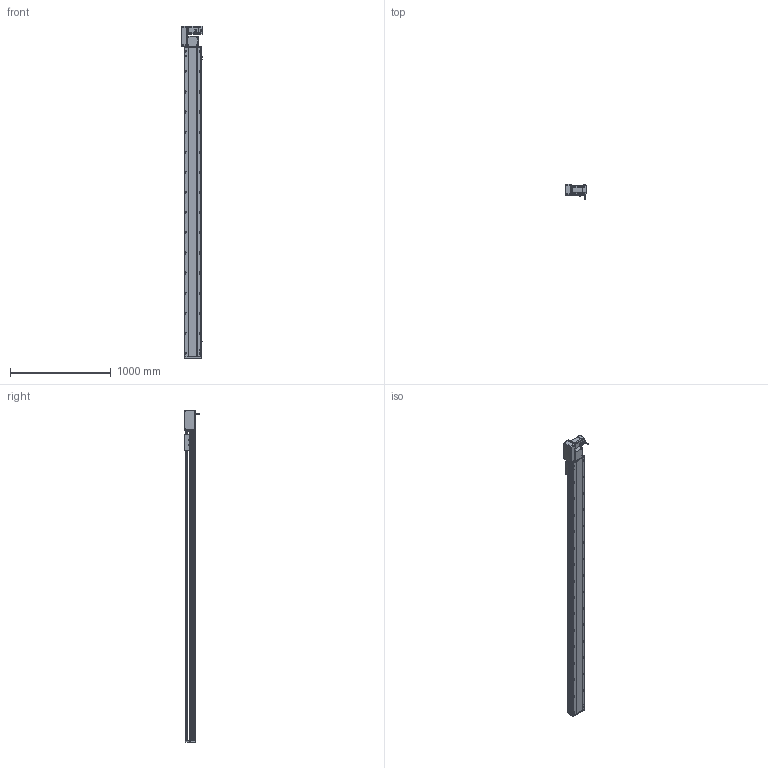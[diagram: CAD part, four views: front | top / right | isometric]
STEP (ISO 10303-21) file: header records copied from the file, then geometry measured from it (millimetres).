
FILE_DESCRIPTION (( 'STEP AP214' ), '1' );
FILE_NAME ('RTB17S-XX-2800-L-M75-C4.STEP', '2025-12-12T00:23:32', ( '' ), ( '' ), 'SwSTEP 2.0', 'SolidWorks 2018', '' );
FILE_SCHEMA (( 'AUTOMOTIVE_DESIGN' ));
Length unit declared in the file: millimetre
Products named in the file (15): RTB17S-L-001-耜醱啣^RTB17S-XX-XX-L-M75-C4; RTB17-R-011菁釱^RTB17S-XX-XX-L-M75-C4; RTB22S-GY-005P^RTB17S-L-々湍釱蚾饜-750W_RTB17S-XX-XX-L-M75-C4; RTB17S-L-007奻裔^RTB17S-XX-XX-L-M75-C4; RTB22S-GY-008-M75--萇儂啣^RTB17S-L-々湍釱蚾饜-750W_RTB17S-XX-XX-L-M75-C4; RMP17S-L-014-T20-P75--々湍釱^RTB17S-L-々湍釱蚾饜-750W_RTB17S-XX-XX-L-M75-C4; EE672^RTB17S-XX-XX-L-M75-C4; RTH13-BL-012覜茼え俋离^RTB17S-賑釱_RTB17S-XX-XX-L-M75-C4; RTB17S-L-々湍釱蚾饜-750W^RTB17S-XX-XX-L-M75-C4; 750W萇儂^RTB17S-XX-XX-L-M75-C4; RTB22S-GY-018P^RTB17S-L-々湍釱蚾饜-750W_RTB17S-XX-XX-L-M75-C4; RTB17S-L-004-賑釱^RTB17S-賑釱_RTB17S-XX-XX-L-M75-C4; RTB17S-賑釱^RTB17S-XX-XX-L-M75-C4; RTB17S-XX-2800-L-M75-C4; RTB22S-GY-017P^RTB17S-L-々湍釱蚾饜-750W_RTB17S-XX-XX-L-M75-C4
Assembly tree (17 placements, depth 3):
  RTB17S-XX-2800-L-M75-C4
    RTB17-R-011菁釱^RTB17S-XX-XX-L-M75-C4
    EE672^RTB17S-XX-XX-L-M75-C4  x3
    RTB17S-L-001-耜醱啣^RTB17S-XX-XX-L-M75-C4
    RTB17S-賑釱^RTB17S-XX-XX-L-M75-C4
      RTB17S-L-004-賑釱^RTB17S-賑釱_RTB17S-XX-XX-L-M75-C4
      RTH13-BL-012覜茼え俋离^RTB17S-賑釱_RTB17S-XX-XX-L-M75-C4
    RTB17S-L-007奻裔^RTB17S-XX-XX-L-M75-C4
    750W萇儂^RTB17S-XX-XX-L-M75-C4
    RTB17S-L-々湍釱蚾饜-750W^RTB17S-XX-XX-L-M75-C4
      RMP17S-L-014-T20-P75--々湍釱^RTB17S-L-々湍釱蚾饜-750W_RTB17S-XX-XX-L-M75-C4
      RTB22S-GY-005P^RTB17S-L-々湍釱蚾饜-750W_RTB17S-XX-XX-L-M75-C4
      RTB22S-GY-017P^RTB17S-L-々湍釱蚾饜-750W_RTB17S-XX-XX-L-M75-C4  x2
      RTB22S-GY-008-M75--萇儂啣^RTB17S-L-々湍釱蚾饜-750W_RTB17S-XX-XX-L-M75-C4
      RTB22S-GY-018P^RTB17S-L-々湍釱蚾饜-750W_RTB17S-XX-XX-L-M75-C4
Bounding box: 210.4 x 152.7 x 3299 mm (x, y, z)
Volume: 23455846.1 mm3; surface area: 4281012.3 mm2
Topology: 17 solids, 17 shells, 2233 faces, 6268 edges, 4058 vertices
Faces by surface type: plane 988, cylinder 829, bspline 294, cone 110, sphere 8, torus 4
Entity records: 65014 total; most frequent: CARTESIAN_POINT 19332, ORIENTED_EDGE 9380, DIRECTION 8672, EDGE_CURVE 4690, AXIS2_PLACEMENT_3D 3078, VERTEX_POINT 3062, LINE 2516, VECTOR 2516
